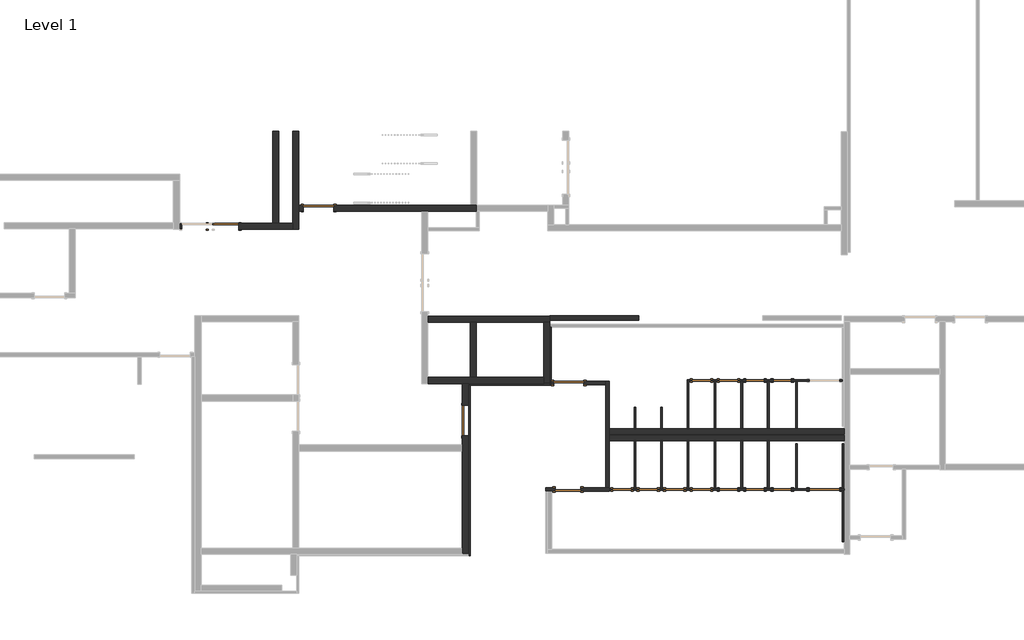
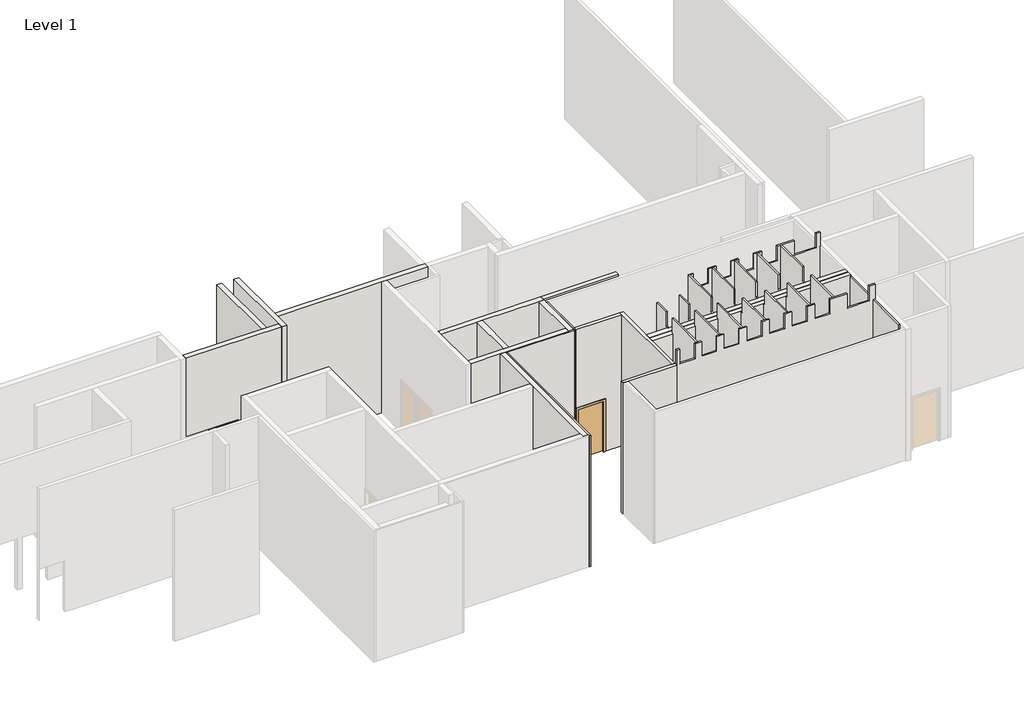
# One storey, part 7 of 10: 35 walls, 17 doors.
"""IFC4 building model written with IfcOpenShell, lengths in millimetres."""

from ifc_helpers import new_model, si_unit, frame, origin, origin_with_axes, place, context, project, spatial, polyline, outline, extrude, faceted_brep, transform, mapped, element, save
from components import door_4812912e, door_cc1532e9, door_7c9e1b45, door_f5ce0651, door_4a3ce9bd, door_11de03bc, door_87287b79

model = new_model("IFC4")

# Units and contexts
model_context = context("Model", 3, world=origin())
ifc_project = project(units=[si_unit("LENGTHUNIT", "METRE", prefix="MILLI")], contexts=[model_context])

# Site, building, storey
site = spatial("IfcSite", under=ifc_project)
building = spatial("IfcBuilding", under=site)
storey = spatial("IfcBuildingStorey", under=building, Name="Level 1", Elevation=0.0)

# Doors
placement = place(None, origin())
door_shape = door_4812912e(model_context)
element("IfcDoor", 1, ObjectType="Single-Flush : 30\" x 80\"", at=placement, inside=storey, context=model_context, shape_type="MappedRepresentation", body=[
    mapped(door_shape, transform((58998.1940091, 19972.9858476, 0.0), x_axis=(1.0, 0.0, 0.0), y_axis=(0.0, 1.0, 0.0), z_axis=(0.0, 0.0, 1.0))),
])
element("IfcDoor", 2, ObjectType="Single-Flush : 30\" x 80\"", at=placement, inside=storey, context=model_context, shape_type="MappedRepresentation", body=[
    mapped(door_shape, transform((58083.7940091, 16324.0853485, 0.0), x_axis=(1.0, 0.0, 0.0), y_axis=(0.0, 1.0, 0.0), z_axis=(0.0, 0.0, 1.0))),
])
element("IfcDoor", 3, ObjectType="Single-Flush : 30\" x 80\"", at=placement, inside=storey, context=model_context, shape_type="MappedRepresentation", body=[
    mapped(door_shape, transform((57194.7940091, 16324.0853485, 0.0), x_axis=(1.0, 0.0, 0.0), y_axis=(0.0, 1.0, 0.0), z_axis=(0.0, 0.0, 1.0))),
])
element("IfcDoor", 4, ObjectType="Single-Flush : 30\" x 80\"", at=placement, inside=storey, context=model_context, shape_type="MappedRepresentation", body=[
    mapped(door_shape, transform((56297.761744, 16324.0853485, 0.0), x_axis=(1.0, 0.0, 0.0), y_axis=(0.0, 1.0, 0.0), z_axis=(0.0, 0.0, 1.0))),
])
element("IfcDoor", 5, ObjectType="Single-Flush : 30\" x 80\"", at=placement, inside=storey, context=model_context, shape_type="MappedRepresentation", body=[
    mapped(door_shape, transform((55400.0944789, 16324.0853485, 0.0), x_axis=(1.0, 0.0, 0.0), y_axis=(0.0, 1.0, 0.0), z_axis=(0.0, 0.0, 1.0))),
])
element("IfcDoor", 6, ObjectType="Single-Flush : 30\" x 80\"", at=placement, inside=storey, context=model_context, shape_type="MappedRepresentation", body=[
    mapped(door_shape, transform((54511.0944789, 16324.0853485, 0.0), x_axis=(1.0, 0.0, 0.0), y_axis=(0.0, 1.0, 0.0), z_axis=(0.0, 0.0, 1.0))),
])
element("IfcDoor", 7, ObjectType="Single-Flush : 30\" x 80\"", at=placement, inside=storey, context=model_context, shape_type="MappedRepresentation", body=[
    mapped(door_shape, transform((53638.0884503, 16324.0853485, 0.0), x_axis=(1.0, 0.0, 0.0), y_axis=(0.0, 1.0, 0.0), z_axis=(0.0, 0.0, 1.0))),
])
door_2_shape = door_cc1532e9(model_context)
element("IfcDoor", 8, ObjectType="Single-Flush : 30\" x 80\"", at=placement, inside=storey, context=model_context, shape_type="MappedRepresentation", body=[
    mapped(door_2_shape, transform((58998.1940091, 16324.0853485, 0.0), x_axis=(1.0, 0.0, 0.0), y_axis=(0.0, 1.0, 0.0), z_axis=(0.0, 0.0, 1.0))),
])
element("IfcDoor", 9, ObjectType="Single-Flush : 30\" x 80\"", at=placement, inside=storey, context=model_context, shape_type="MappedRepresentation", body=[
    mapped(door_2_shape, transform((56297.761744, 19972.9858476, 0.0), x_axis=(1.0, 0.0, 0.0), y_axis=(0.0, 1.0, 0.0), z_axis=(0.0, 0.0, 1.0))),
])
element("IfcDoor", 10, ObjectType="Single-Flush : 30\" x 80\"", at=placement, inside=storey, context=model_context, shape_type="MappedRepresentation", body=[
    mapped(door_2_shape, transform((57194.7940091, 19972.9858476, 0.0), x_axis=(1.0, 0.0, 0.0), y_axis=(0.0, 1.0, 0.0), z_axis=(0.0, 0.0, 1.0))),
])
element("IfcDoor", 11, ObjectType="Single-Flush : 30\" x 80\"", at=placement, inside=storey, context=model_context, shape_type="MappedRepresentation", body=[
    mapped(door_2_shape, transform((58083.7940091, 19972.9858476, 0.0), x_axis=(1.0, 0.0, 0.0), y_axis=(0.0, 1.0, 0.0), z_axis=(0.0, 0.0, 1.0))),
])
door_3_shape = door_7c9e1b45(model_context)
element("IfcDoor", 12, ObjectType="Single-Flush : 34\" x 84\"", at=placement, inside=storey, context=model_context, shape_type="MappedRepresentation", body=[
    mapped(door_3_shape, transform((51827.2484096, 16324.0853485, 0.0), x_axis=(-1.0, 0.0, 0.0), y_axis=(0.0, -1.0, 0.0), z_axis=(0.0, 0.0, 1.0))),
])
door_4_shape = door_f5ce0651(model_context)
element("IfcDoor", 13, ObjectType="Single-Flush : 36\" x 84\"", at=placement, inside=storey, context=model_context, shape_type="MappedRepresentation", body=[
    mapped(door_4_shape, transform((51854.7913548, 19888.0228471, 0.0), x_axis=(-1.0, 0.0, 0.0), y_axis=(0.0, -1.0, 0.0), z_axis=(0.0, 0.0, 1.0))),
])
door_5_shape = door_4a3ce9bd(model_context)
element("IfcDoor", 14, ObjectType="Single-Flush : 36\" x 84\"", at=placement, inside=storey, context=model_context, shape_type="MappedRepresentation", body=[
    mapped(door_5_shape, transform((60406.6724216, 16324.0853485, 0.0), x_axis=(1.0, 0.0, 0.0), y_axis=(0.0, 1.0, 0.0), z_axis=(0.0, 0.0, 1.0))),
])
door_6_shape = door_11de03bc(model_context)
element("IfcDoor", 15, ObjectType="Single-Flush : 36\" x 84\"", at=placement, inside=storey, context=model_context, shape_type="MappedRepresentation", body=[
    mapped(door_6_shape, transform((48401.9974216, 18628.6486025, 0.0), x_axis=(0.0, -1.0, 0.0), y_axis=(1.0, 0.0, 0.0), z_axis=(0.0, 0.0, 1.0))),
])
element("IfcDoor", 16, ObjectType="Single-Flush : 36\" x 84\"", at=placement, inside=storey, context=model_context, shape_type="MappedRepresentation", body=[
    mapped(door_6_shape, transform((43490.2725377, 25738.7858476, 0.0), x_axis=(-1.0, 0.0, 0.0), y_axis=(0.0, -1.0, 0.0), z_axis=(0.0, 0.0, 1.0))),
])
door_7_shape = door_87287b79(model_context)
element("IfcDoor", 17, ObjectType="Single-Flush : 36\" x 84\"", at=placement, inside=storey, context=model_context, shape_type="MappedRepresentation", body=[
    mapped(door_7_shape, transform((40310.5099216, 25129.1858476, 0.0), x_axis=(1.0, 0.0, 0.0), y_axis=(0.0, 1.0, 0.0), z_axis=(0.0, 0.0, 1.0))),
])

# Walls
element("IfcWall", 18, ObjectType="N2A/B", at=placement, inside=storey, context=model_context, shape_type="SweptSolid", body=[
    extrude(outline(polyline([(0.0, 51273.7663548), (0.0, 51346.7913548), (2133.6, 51346.7913548), (2133.6, 52362.7913548), (0.0, 52362.7913548), (0.0, 53085.1224216), (5486.4, 53085.1224216), (5486.4, 51273.7663548), (0.0, 51273.7663548)])), frame((0.0, 19826.1103471, 0.0), z_axis=(0.0, 1.0, 0.0), x_axis=(0.0, 0.0, 1.0)), (0.0, 0.0, 1.0), 123.825),
])
element("IfcWall", 19, ObjectType="F1A", at=placement, inside=storey, context=model_context, shape_type="Brep", body=[
    faceted_brep([(55873.8044789, 18351.3228454, 0.0), (55873.8044789, 19944.4108476, 0.0), (55873.8044789, 20001.5608476, 0.0), (55873.8044789, 20001.5608476, 6096.0), (55873.8044789, 19944.4108476, 6096.0), (55873.8044789, 18457.6706082, 6096.0), (55873.8044789, 18457.6706082, 5486.4), (55873.8044789, 18351.3228454, 5486.4), (55816.6544789, 18351.3228454, 0.0), (55816.6544789, 18351.3228454, 5486.4), (55816.6544789, 18457.6706082, 5486.4), (55816.6544789, 18457.6706082, 6096.0), (55816.6544789, 20001.5608476, 6096.0), (55816.6544789, 20001.5608476, 0.0)], [[[0, 1, 2, 3, 4, 5, 6, 7]], [[8, 9, 10, 11, 12, 13]], [[2, 1, 0, 8, 13]], [[5, 4, 3, 12, 11]], [[3, 2, 13, 12]], [[6, 10, 9, 7]], [[0, 7, 9, 8]], [[6, 5, 11, 10]]]),
])
element("IfcWall", 20, ObjectType="F1A", at=placement, inside=storey, context=model_context, shape_type="SweptSolid", body=[
    extrude(outline(polyline([(18351.3228454, 0.0), (18351.3228454, 5486.4), (18457.6706082, 5486.4), (18457.6706082, 6096.0), (19944.4108476, 6096.0), (19944.4108476, 0.0), (18351.3228454, 0.0)])), frame((56721.7190091, 0.0, 0.0), z_axis=(1.0, 0.0, 0.0), x_axis=(0.0, 1.0, 0.0)), (0.0, 0.0, 1.0), 57.15),
])
element("IfcWall", 21, ObjectType="F1A", at=placement, inside=storey, context=model_context, shape_type="SweptSolid", body=[
    extrude(outline(polyline([(18351.3228454, 0.0), (18351.3228454, 5486.4), (18457.6706082, 5486.4), (18457.6706082, 6096.0), (19944.4108476, 6096.0), (19944.4108476, 0.0), (18351.3228454, 0.0)])), frame((57610.7190091, 0.0, 0.0), z_axis=(1.0, 0.0, 0.0), x_axis=(0.0, 1.0, 0.0)), (0.0, 0.0, 1.0), 57.15),
])
element("IfcWall", 22, ObjectType="F1A", at=placement, inside=storey, context=model_context, shape_type="SweptSolid", body=[
    extrude(outline(polyline([(18351.3228454, 0.0), (18351.3228454, 5486.4), (18457.6706082, 5486.4), (18457.6706082, 6096.0), (19944.4108476, 6096.0), (19944.4108476, 0.0), (18351.3228454, 0.0)])), frame((58499.7190091, 0.0, 0.0), z_axis=(1.0, 0.0, 0.0), x_axis=(0.0, 1.0, 0.0)), (0.0, 0.0, 1.0), 57.15),
])
element("IfcWall", 23, ObjectType="F1A", at=placement, inside=storey, context=model_context, shape_type="SweptSolid", body=[
    extrude(outline(polyline([(18351.3228454, 0.0), (18351.3228454, 5486.4), (18457.6706082, 5486.4), (18457.6706082, 6096.0), (19944.4108476, 6096.0), (19944.4108476, 0.0), (18351.3228454, 0.0)])), frame((59439.5190091, 0.0, 0.0), z_axis=(1.0, 0.0, 0.0), x_axis=(0.0, 1.0, 0.0)), (0.0, 0.0, 1.0), 57.15),
])
element("IfcWall", 24, ObjectType="F1A", at=placement, inside=storey, context=model_context, shape_type="SweptSolid", body=[
    extrude(outline(polyline([(18351.3228454, 0.0), (18351.3228454, 5486.4), (18457.6706082, 5486.4), (18457.6706082, 6096.0), (19084.7331065, 6096.0), (19084.7331065, 0.0), (18351.3228454, 0.0)])), frame((54926.3844789, 0.0, 0.0), z_axis=(1.0, 0.0, 0.0), x_axis=(0.0, 1.0, 0.0)), (0.0, 0.0, 1.0), 57.15),
])
element("IfcWall", 25, ObjectType="F1A", at=placement, inside=storey, context=model_context, shape_type="SweptSolid", body=[
    extrude(outline(polyline([(18351.3228454, 0.0), (18351.3228454, 5486.4), (18457.6706082, 5486.4), (18457.6706082, 6096.0), (19084.7331065, 6096.0), (19084.7331065, 0.0), (18351.3228454, 0.0)])), frame((54038.6544789, 0.0, 0.0), z_axis=(1.0, 0.0, 0.0), x_axis=(0.0, 1.0, 0.0)), (0.0, 0.0, 1.0), 57.15),
])
element("IfcWall", 26, ObjectType="F1A", at=placement, inside=storey, context=model_context, shape_type="Brep", body=[
    faceted_brep([(58388.5940091, 19944.4108476, 2032.0), (58388.5940091, 19944.4108476, 0.0), (58499.7190091, 19944.4108476, 0.0), (58556.8690091, 19944.4108476, 0.0), (58693.3940091, 19944.4108476, 0.0), (58693.3940091, 19944.4108476, 2032.0), (59302.9940091, 19944.4108476, 2032.0), (59302.9940091, 19944.4108476, 0.0), (59439.5190091, 19944.4108476, 0.0), (59496.6690091, 19944.4108476, 0.0), (59906.0544789, 19944.4108476, 0.0), (59906.0544789, 19944.4108476, 2133.6), (60922.0544789, 19944.4108476, 2133.6), (60922.0544789, 19944.4108476, 0.0), (60995.0794789, 19944.4108476, 0.0), (60995.0794789, 19944.4108476, 5486.4), (61003.2065091, 19944.4108476, 5486.4), (61003.2065091, 19944.4108476, 6096.0), (60845.8544789, 19944.4108476, 6096.0), (60845.8544789, 19944.4108476, 5486.4), (59982.2544789, 19944.4108476, 5486.4), (59982.2544789, 19944.4108476, 6096.0), (59496.6690091, 19944.4108476, 6096.0), (59439.5190091, 19944.4108476, 6096.0), (59302.9940091, 19944.4108476, 6096.0), (59302.9940091, 19944.4108476, 5486.4), (58693.3940091, 19944.4108476, 5486.4), (58693.3940091, 19944.4108476, 6096.0), (58556.8690091, 19944.4108476, 6096.0), (58499.7190091, 19944.4108476, 6096.0), (58388.5940091, 19944.4108476, 6096.0), (58388.5940091, 19944.4108476, 5486.4), (57778.9940091, 19944.4108476, 5486.4), (57778.9940091, 19944.4108476, 6096.0), (57667.8690091, 19944.4108476, 6096.0), (57610.7190091, 19944.4108476, 6096.0), (57499.5940091, 19944.4108476, 6096.0), (57499.5940091, 19944.4108476, 5486.4), (56889.9940091, 19944.4108476, 5486.4), (56889.9940091, 19944.4108476, 6096.0), (56778.8690091, 19944.4108476, 6096.0), (56721.7190091, 19944.4108476, 6096.0), (56602.561744, 19944.4108476, 6096.0), (56602.561744, 19944.4108476, 5486.4), (55992.961744, 19944.4108476, 5486.4), (55992.961744, 19944.4108476, 6096.0), (55873.8044789, 19944.4108476, 6096.0), (55873.8044789, 19944.4108476, 0.0), (55992.961744, 19944.4108476, 0.0), (55992.961744, 19944.4108476, 2032.0), (56602.561744, 19944.4108476, 2032.0), (56602.561744, 19944.4108476, 0.0), (56721.7190091, 19944.4108476, 0.0), (56778.8690091, 19944.4108476, 0.0), (56889.9940091, 19944.4108476, 0.0), (56889.9940091, 19944.4108476, 2032.0), (57499.5940091, 19944.4108476, 2032.0), (57499.5940091, 19944.4108476, 0.0), (57610.7190091, 19944.4108476, 0.0), (57667.8690091, 19944.4108476, 0.0), (57778.9940091, 19944.4108476, 0.0), (57778.9940091, 19944.4108476, 2032.0), (58693.3940091, 20001.5608476, 0.0), (58388.5940091, 20001.5608476, 0.0), (58388.5940091, 20001.5608476, 2032.0), (57778.9940091, 20001.5608476, 2032.0), (57778.9940091, 20001.5608476, 0.0), (57499.5940091, 20001.5608476, 0.0), (57499.5940091, 20001.5608476, 2032.0), (56889.9940091, 20001.5608476, 2032.0), (56889.9940091, 20001.5608476, 0.0), (56602.561744, 20001.5608476, 0.0), (56602.561744, 20001.5608476, 2032.0), (55992.961744, 20001.5608476, 2032.0), (55992.961744, 20001.5608476, 0.0), (55873.8044789, 20001.5608476, 0.0), (55873.8044789, 20001.5608476, 6096.0), (55992.961744, 20001.5608476, 6096.0), (55992.961744, 20001.5608476, 5486.4), (56602.561744, 20001.5608476, 5486.4), (56602.561744, 20001.5608476, 6096.0), (56889.9940091, 20001.5608476, 6096.0), (56889.9940091, 20001.5608476, 5486.4), (57499.5940091, 20001.5608476, 5486.4), (57499.5940091, 20001.5608476, 6096.0), (57778.9940091, 20001.5608476, 6096.0), (57778.9940091, 20001.5608476, 5486.4), (58388.5940091, 20001.5608476, 5486.4), (58388.5940091, 20001.5608476, 6096.0), (58693.3940091, 20001.5608476, 6096.0), (58693.3940091, 20001.5608476, 5486.4), (59302.9940091, 20001.5608476, 5486.4), (59302.9940091, 20001.5608476, 6096.0), (59982.2544789, 20001.5608476, 6096.0), (59982.2544789, 20001.5608476, 5486.4), (60845.8544789, 20001.5608476, 5486.4), (60845.8544789, 20001.5608476, 6096.0), (61003.2065091, 20001.5608476, 6096.0), (61003.2065091, 20001.5608476, 5486.4), (60995.0794789, 20001.5608476, 5486.4), (60995.0794789, 20001.5608476, 0.0), (60922.0544789, 20001.5608476, 0.0), (60922.0544789, 20001.5608476, 2133.6), (59906.0544789, 20001.5608476, 2133.6), (59906.0544789, 20001.5608476, 0.0), (59302.9940091, 20001.5608476, 0.0), (59302.9940091, 20001.5608476, 2032.0), (58693.3940091, 20001.5608476, 2032.0)], [[[0, 1, 2, 3, 4, 5, 6, 7, 8, 9, 10, 11, 12, 13, 14, 15, 16, 17, 18, 19, 20, 21, 22, 23, 24, 25, 26, 27, 28, 29, 30, 31, 32, 33, 34, 35, 36, 37, 38, 39, 40, 41, 42, 43, 44, 45, 46, 47, 48, 49, 50, 51, 52, 53, 54, 55, 56, 57, 58, 59, 60, 61]], [[62, 63, 64, 65, 66, 67, 68, 69, 70, 71, 72, 73, 74, 75, 76, 77, 78, 79, 80, 81, 82, 83, 84, 85, 86, 87, 88, 89, 90, 91, 92, 93, 94, 95, 96, 97, 98, 99, 100, 101, 102, 103, 104, 105, 106, 107]], [[10, 9, 8, 7, 105, 104]], [[100, 14, 13, 101]], [[4, 3, 2, 1, 63, 62]], [[48, 47, 75, 74]], [[54, 53, 52, 51, 71, 70]], [[60, 59, 58, 57, 67, 66]], [[17, 97, 96, 18]], [[76, 46, 45, 77]], [[21, 93, 92, 24, 23, 22]], [[27, 89, 88, 30, 29, 28]], [[33, 85, 84, 36, 35, 34]], [[39, 81, 80, 42, 41, 40]], [[47, 46, 76, 75]], [[16, 15, 99, 98]], [[15, 14, 100, 99]], [[17, 16, 98, 97]], [[102, 101, 13, 12]], [[103, 102, 12, 11]], [[104, 103, 11, 10]], [[94, 20, 19, 95]], [[95, 19, 18, 96]], [[20, 94, 93, 21]], [[90, 26, 25, 91]], [[91, 25, 24, 92]], [[26, 90, 89, 27]], [[86, 32, 31, 87]], [[87, 31, 30, 88]], [[32, 86, 85, 33]], [[37, 83, 82, 38]], [[38, 82, 81, 39]], [[83, 37, 36, 84]], [[78, 44, 43, 79]], [[79, 43, 42, 80]], [[44, 78, 77, 45]], [[106, 105, 7, 6]], [[107, 106, 6, 5]], [[62, 107, 5, 4]], [[72, 71, 51, 50]], [[73, 72, 50, 49]], [[74, 73, 49, 48]], [[68, 67, 57, 56]], [[69, 68, 56, 55]], [[70, 69, 55, 54]], [[64, 63, 1, 0]], [[65, 64, 0, 61]], [[66, 65, 61, 60]]]),
])
element("IfcWall", 27, ObjectType="F1A", at=placement, inside=storey, context=model_context, shape_type="SweptSolid", body=[
    extrude(outline(polyline([(17951.2728471, 0.0), (16352.6603485, 0.0), (16352.6603485, 6096.0), (18009.99561, 6096.0), (18009.99561, 5486.4), (17951.2728471, 5486.4), (17951.2728471, 0.0)])), frame((54038.6544789, 0.0, 0.0), z_axis=(1.0, 0.0, 0.0), x_axis=(0.0, 1.0, 0.0)), (0.0, 0.0, 1.0), 57.15),
])
element("IfcWall", 28, ObjectType="F1A", at=placement, inside=storey, context=model_context, shape_type="SweptSolid", body=[
    extrude(outline(polyline([(17951.2728471, 0.0), (16352.6603485, 0.0), (16352.6603485, 6096.0), (18009.99561, 6096.0), (18009.99561, 5486.4), (17951.2728471, 5486.4), (17951.2728471, 0.0)])), frame((54926.3844789, 0.0, 0.0), z_axis=(1.0, 0.0, 0.0), x_axis=(0.0, 1.0, 0.0)), (0.0, 0.0, 1.0), 57.15),
])
element("IfcWall", 29, ObjectType="F1A", at=placement, inside=storey, context=model_context, shape_type="SweptSolid", body=[
    extrude(outline(polyline([(17951.2728471, 0.0), (16352.6603485, 0.0), (16352.6603485, 6096.0), (18009.99561, 6096.0), (18009.99561, 5486.4), (17951.2728471, 5486.4), (17951.2728471, 0.0)])), frame((55816.6544789, 0.0, 0.0), z_axis=(1.0, 0.0, 0.0), x_axis=(0.0, 1.0, 0.0)), (0.0, 0.0, 1.0), 57.15),
])
element("IfcWall", 30, ObjectType="F1A", at=placement, inside=storey, context=model_context, shape_type="SweptSolid", body=[
    extrude(outline(polyline([(17951.2728471, 0.0), (16352.6603485, 0.0), (16352.6603485, 6096.0), (17857.59561, 6096.0), (17857.59561, 5486.4), (17951.2728471, 5486.4), (17951.2728471, 0.0)])), frame((56721.7190091, 0.0, 0.0), z_axis=(1.0, 0.0, 0.0), x_axis=(0.0, 1.0, 0.0)), (0.0, 0.0, 1.0), 57.15),
])
element("IfcWall", 31, ObjectType="F1A", at=placement, inside=storey, context=model_context, shape_type="SweptSolid", body=[
    extrude(outline(polyline([(17951.2728471, 0.0), (16352.6603485, 0.0), (16352.6603485, 6096.0), (17857.59561, 6096.0), (17857.59561, 5486.4), (17951.2728471, 5486.4), (17951.2728471, 0.0)])), frame((57610.7190091, 0.0, 0.0), z_axis=(1.0, 0.0, 0.0), x_axis=(0.0, 1.0, 0.0)), (0.0, 0.0, 1.0), 57.15),
])
element("IfcWall", 32, ObjectType="F1A", at=placement, inside=storey, context=model_context, shape_type="SweptSolid", body=[
    extrude(outline(polyline([(17951.2728471, 0.0), (16352.6603485, 0.0), (16352.6603485, 6096.0), (17857.59561, 6096.0), (17857.59561, 5486.4), (17951.2728471, 5486.4), (17951.2728471, 0.0)])), frame((58499.7190091, 0.0, 0.0), z_axis=(1.0, 0.0, 0.0), x_axis=(0.0, 1.0, 0.0)), (0.0, 0.0, 1.0), 57.15),
])
element("IfcWall", 33, ObjectType="F1A", at=placement, inside=storey, context=model_context, shape_type="SweptSolid", body=[
    extrude(outline(polyline([(59439.5190091, 16352.6603485), (59439.5190091, 17857.59561), (59496.6690091, 17857.59561), (59496.6690091, 16352.6603485), (59439.5190091, 16352.6603485)])), origin_with_axes(), (0.0, 0.0, 1.0), 6096.0),
])
element("IfcWall", 34, ObjectType="F1A", at=placement, inside=storey, context=model_context, shape_type="Brep", body=[
    faceted_brep([(53942.8884503, 16295.5103485, 2032.0), (53942.8884503, 16295.5103485, 0.0), (54206.2944789, 16295.5103485, 0.0), (54206.2944789, 16295.5103485, 2032.0), (54815.8944789, 16295.5103485, 2032.0), (54815.8944789, 16295.5103485, 0.0), (55095.2944789, 16295.5103485, 0.0), (55095.2944789, 16295.5103485, 2032.0), (55704.8944789, 16295.5103485, 2032.0), (55704.8944789, 16295.5103485, 0.0), (55992.961744, 16295.5103485, 0.0), (55992.961744, 16295.5103485, 2032.0), (56602.561744, 16295.5103485, 2032.0), (56602.561744, 16295.5103485, 0.0), (56889.9940091, 16295.5103485, 0.0), (56889.9940091, 16295.5103485, 2032.0), (57499.5940091, 16295.5103485, 2032.0), (57499.5940091, 16295.5103485, 0.0), (57778.9940091, 16295.5103485, 0.0), (57778.9940091, 16295.5103485, 2032.0), (58388.5940091, 16295.5103485, 2032.0), (58388.5940091, 16295.5103485, 0.0), (58693.3940091, 16295.5103485, 0.0), (58693.3940091, 16295.5103485, 2032.0), (59302.9940091, 16295.5103485, 2032.0), (59302.9940091, 16295.5103485, 0.0), (59898.6724216, 16295.5103485, 0.0), (59898.6724216, 16295.5103485, 2133.6), (60914.6724216, 16295.5103485, 2133.6), (60914.6724216, 16295.5103485, 0.0), (61076.5974216, 16295.5103485, 0.0), (61076.5974216, 16295.5103485, 6096.0), (60838.4724216, 16295.5103485, 6096.0), (60838.4724216, 16295.5103485, 5486.4), (59974.8724216, 16295.5103485, 5486.4), (59974.8724216, 16295.5103485, 6096.0), (59302.9940091, 16295.5103485, 6096.0), (59302.9940091, 16295.5103485, 5486.4), (58693.3940091, 16295.5103485, 5486.4), (58693.3940091, 16295.5103485, 6096.0), (58388.5940091, 16295.5103485, 6096.0), (58388.5940091, 16295.5103485, 5486.4), (57778.9940091, 16295.5103485, 5486.4), (57778.9940091, 16295.5103485, 6096.0), (57499.5940091, 16295.5103485, 6096.0), (57499.5940091, 16295.5103485, 5486.4), (56889.9940091, 16295.5103485, 5486.4), (56889.9940091, 16295.5103485, 6096.0), (56602.561744, 16295.5103485, 6096.0), (56602.561744, 16295.5103485, 5486.4), (55992.961744, 16295.5103485, 5486.4), (55992.961744, 16295.5103485, 6096.0), (55704.8944789, 16295.5103485, 6096.0), (55704.8944789, 16295.5103485, 5486.4), (55095.2944789, 16295.5103485, 5486.4), (55095.2944789, 16295.5103485, 6096.0), (54815.8944789, 16295.5103485, 6096.0), (54815.8944789, 16295.5103485, 5486.4), (54206.2944789, 16295.5103485, 5486.4), (54206.2944789, 16295.5103485, 6096.0), (53950.642994, 16295.5103485, 6096.0), (53950.642994, 16295.5103485, 5486.4), (53341.042994, 16295.5103485, 5486.4), (53341.042994, 16295.5103485, 6096.0), (53224.4565091, 16295.5103485, 6096.0), (53224.4565091, 16295.5103485, 5486.4), (53208.9474216, 16295.5103485, 5486.4), (53208.9474216, 16295.5103485, 0.0), (53333.2884503, 16295.5103485, 0.0), (53333.2884503, 16295.5103485, 2032.0), (54206.2944789, 16352.6603485, 0.0), (54095.8044789, 16352.6603485, 0.0), (54038.6544789, 16352.6603485, 0.0), (53942.8884503, 16352.6603485, 0.0), (53942.8884503, 16352.6603485, 2032.0), (53333.2884503, 16352.6603485, 2032.0), (53333.2884503, 16352.6603485, 0.0), (53208.9474216, 16352.6603485, 0.0), (53208.9474216, 16352.6603485, 5486.4), (53224.4565091, 16352.6603485, 5486.4), (53224.4565091, 16352.6603485, 6096.0), (53341.042994, 16352.6603485, 6096.0), (53341.042994, 16352.6603485, 5486.4), (53950.642994, 16352.6603485, 5486.4), (53950.642994, 16352.6603485, 6096.0), (54038.6544789, 16352.6603485, 6096.0), (54095.8044789, 16352.6603485, 6096.0), (54206.2944789, 16352.6603485, 6096.0), (54206.2944789, 16352.6603485, 5486.4), (54815.8944789, 16352.6603485, 5486.4), (54815.8944789, 16352.6603485, 6096.0), (54926.3844789, 16352.6603485, 6096.0), (54983.5344789, 16352.6603485, 6096.0), (55095.2944789, 16352.6603485, 6096.0), (55095.2944789, 16352.6603485, 5486.4), (55704.8944789, 16352.6603485, 5486.4), (55704.8944789, 16352.6603485, 6096.0), (55816.6544789, 16352.6603485, 6096.0), (55873.8044789, 16352.6603485, 6096.0), (55992.961744, 16352.6603485, 6096.0), (55992.961744, 16352.6603485, 5486.4), (56602.561744, 16352.6603485, 5486.4), (56602.561744, 16352.6603485, 6096.0), (56721.7190091, 16352.6603485, 6096.0), (56778.8690091, 16352.6603485, 6096.0), (56889.9940091, 16352.6603485, 6096.0), (56889.9940091, 16352.6603485, 5486.4), (57499.5940091, 16352.6603485, 5486.4), (57499.5940091, 16352.6603485, 6096.0), (57610.7190091, 16352.6603485, 6096.0), (57667.8690091, 16352.6603485, 6096.0), (57778.9940091, 16352.6603485, 6096.0), (57778.9940091, 16352.6603485, 5486.4), (58388.5940091, 16352.6603485, 5486.4), (58388.5940091, 16352.6603485, 6096.0), (58499.7190091, 16352.6603485, 6096.0), (58556.8690091, 16352.6603485, 6096.0), (58693.3940091, 16352.6603485, 6096.0), (58693.3940091, 16352.6603485, 5486.4), (59302.9940091, 16352.6603485, 5486.4), (59302.9940091, 16352.6603485, 6096.0), (59439.5190091, 16352.6603485, 6096.0), (59496.6690091, 16352.6603485, 6096.0), (59974.8724216, 16352.6603485, 6096.0), (59974.8724216, 16352.6603485, 5486.4), (60838.4724216, 16352.6603485, 5486.4), (60838.4724216, 16352.6603485, 6096.0), (61076.5974216, 16352.6603485, 6096.0), (61076.5974216, 16352.6603485, 0.0), (60914.6724216, 16352.6603485, 0.0), (60914.6724216, 16352.6603485, 2133.6), (59898.6724216, 16352.6603485, 2133.6), (59898.6724216, 16352.6603485, 0.0), (59496.6690091, 16352.6603485, 0.0), (59439.5190091, 16352.6603485, 0.0), (59302.9940091, 16352.6603485, 0.0), (59302.9940091, 16352.6603485, 2032.0), (58693.3940091, 16352.6603485, 2032.0), (58693.3940091, 16352.6603485, 0.0), (58556.8690091, 16352.6603485, 0.0), (58499.7190091, 16352.6603485, 0.0), (58388.5940091, 16352.6603485, 0.0), (58388.5940091, 16352.6603485, 2032.0), (57778.9940091, 16352.6603485, 2032.0), (57778.9940091, 16352.6603485, 0.0), (57667.8690091, 16352.6603485, 0.0), (57610.7190091, 16352.6603485, 0.0), (57499.5940091, 16352.6603485, 0.0), (57499.5940091, 16352.6603485, 2032.0), (56889.9940091, 16352.6603485, 2032.0), (56889.9940091, 16352.6603485, 0.0), (56778.8690091, 16352.6603485, 0.0), (56721.7190091, 16352.6603485, 0.0), (56602.561744, 16352.6603485, 0.0), (56602.561744, 16352.6603485, 2032.0), (55992.961744, 16352.6603485, 2032.0), (55992.961744, 16352.6603485, 0.0), (55873.8044789, 16352.6603485, 0.0), (55816.6544789, 16352.6603485, 0.0), (55704.8944789, 16352.6603485, 0.0), (55704.8944789, 16352.6603485, 2032.0), (55095.2944789, 16352.6603485, 2032.0), (55095.2944789, 16352.6603485, 0.0), (54983.5344789, 16352.6603485, 0.0), (54926.3844789, 16352.6603485, 0.0), (54815.8944789, 16352.6603485, 0.0), (54815.8944789, 16352.6603485, 2032.0), (54206.2944789, 16352.6603485, 2032.0)], [[[0, 1, 2, 3, 4, 5, 6, 7, 8, 9, 10, 11, 12, 13, 14, 15, 16, 17, 18, 19, 20, 21, 22, 23, 24, 25, 26, 27, 28, 29, 30, 31, 32, 33, 34, 35, 36, 37, 38, 39, 40, 41, 42, 43, 44, 45, 46, 47, 48, 49, 50, 51, 52, 53, 54, 55, 56, 57, 58, 59, 60, 61, 62, 63, 64, 65, 66, 67, 68, 69]], [[70, 71, 72, 73, 74, 75, 76, 77, 78, 79, 80, 81, 82, 83, 84, 85, 86, 87, 88, 89, 90, 91, 92, 93, 94, 95, 96, 97, 98, 99, 100, 101, 102, 103, 104, 105, 106, 107, 108, 109, 110, 111, 112, 113, 114, 115, 116, 117, 118, 119, 120, 121, 122, 123, 124, 125, 126, 127, 128, 129, 130, 131, 132, 133, 134, 135, 136, 137, 138, 139, 140, 141, 142, 143, 144, 145, 146, 147, 148, 149, 150, 151, 152, 153, 154, 155, 156, 157, 158, 159, 160, 161, 162, 163, 164, 165, 166, 167]], [[26, 25, 135, 134, 133, 132]], [[128, 30, 29, 129]], [[22, 21, 141, 140, 139, 138]], [[18, 17, 147, 146, 145, 144]], [[14, 13, 153, 152, 151, 150]], [[10, 9, 159, 158, 157, 156]], [[6, 5, 165, 164, 163, 162]], [[2, 1, 73, 72, 71, 70]], [[68, 67, 77, 76]], [[31, 127, 126, 32]], [[80, 64, 63, 81]], [[35, 123, 122, 121, 120, 36]], [[108, 44, 43, 111, 110, 109]], [[47, 105, 104, 103, 102, 48]], [[114, 40, 39, 117, 116, 115]], [[51, 99, 98, 97, 96, 52]], [[55, 93, 92, 91, 90, 56]], [[59, 87, 86, 85, 84, 60]], [[31, 30, 128, 127]], [[66, 65, 79, 78]], [[67, 66, 78, 77]], [[65, 64, 80, 79]], [[130, 129, 29, 28]], [[131, 130, 28, 27]], [[132, 131, 27, 26]], [[124, 34, 33, 125]], [[125, 33, 32, 126]], [[34, 124, 123, 35]], [[106, 46, 45, 107]], [[107, 45, 44, 108]], [[46, 106, 105, 47]], [[112, 42, 41, 113]], [[113, 41, 40, 114]], [[42, 112, 111, 43]], [[100, 50, 49, 101]], [[101, 49, 48, 102]], [[50, 100, 99, 51]], [[94, 54, 53, 95]], [[95, 53, 52, 96]], [[54, 94, 93, 55]], [[88, 58, 57, 89]], [[89, 57, 56, 90]], [[58, 88, 87, 59]], [[82, 62, 61, 83]], [[83, 61, 60, 84]], [[62, 82, 81, 63]], [[118, 38, 37, 119]], [[119, 37, 36, 120]], [[38, 118, 117, 39]], [[136, 135, 25, 24]], [[137, 136, 24, 23]], [[138, 137, 23, 22]], [[142, 141, 21, 20]], [[143, 142, 20, 19]], [[144, 143, 19, 18]], [[148, 147, 17, 16]], [[149, 148, 16, 15]], [[150, 149, 15, 14]], [[154, 153, 13, 12]], [[155, 154, 12, 11]], [[156, 155, 11, 10]], [[160, 159, 9, 8]], [[161, 160, 8, 7]], [[162, 161, 7, 6]], [[166, 165, 5, 4]], [[167, 166, 4, 3]], [[70, 167, 3, 2]], [[74, 73, 1, 0]], [[75, 74, 0, 69]], [[76, 75, 69, 68]]]),
])
element("IfcWall", 35, ObjectType="F5A", at=placement, inside=storey, context=model_context, shape_type="Brep", body=[
    faceted_brep([(51216.6163548, 21745.3978471, 0.0), (51216.6163548, 19878.4978486, 0.0), (51216.6163548, 19821.3478486, 0.0), (51216.6163548, 19821.3478486, 5486.4), (51216.6163548, 19878.4978486, 5486.4), (51216.6163548, 21745.3978471, 5486.4), (51273.7663548, 21745.3978471, 0.0), (51273.7663548, 21745.3978471, 5486.4), (51273.7663548, 19949.9353471, 5486.4), (51273.7663548, 19826.1103471, 5486.4), (51273.7663548, 19821.3478486, 5486.4), (51273.7663548, 19821.3478486, 0.0), (51273.7663548, 19826.1103471, 0.0), (51273.7663548, 19949.9353471, 0.0)], [[[0, 1, 2, 3, 4, 5]], [[6, 7, 8, 9, 10, 11, 12, 13]], [[2, 1, 0, 6, 13, 12, 11]], [[5, 4, 3, 10, 9, 8, 7]], [[0, 5, 7, 6]], [[3, 2, 11, 10]]]),
])
element("IfcWall", 36, ObjectType="F5A", at=placement, inside=storey, context=model_context, shape_type="Brep", body=[
    faceted_brep([(51216.6163548, 19878.4978486, 0.0), (48505.1849216, 19878.4978486, 0.0), (48505.1849216, 19878.4978486, 5486.4), (51216.6163548, 19878.4978486, 5486.4), (51216.6163548, 19821.3478486, 0.0), (51216.6163548, 19821.3478486, 5486.4), (48562.3349216, 19821.3478486, 5486.4), (48505.1849216, 19821.3478486, 5486.4), (48505.1849216, 19821.3478486, 0.0), (48562.3349216, 19821.3478486, 0.0)], [[[0, 1, 2, 3]], [[4, 5, 6, 7, 8, 9]], [[1, 0, 4, 9, 8]], [[3, 2, 7, 6, 5]], [[2, 1, 8, 7]], [[0, 3, 5, 4]]]),
])
element("IfcWall", 37, ObjectType="F5A", at=placement, inside=storey, context=model_context, shape_type="Brep", body=[
    faceted_brep([(48505.1849216, 19821.3478486, 0.0), (48505.1849216, 14175.8909273, 0.0), (48505.1849216, 14118.7409273, 0.0), (48505.1849216, 14118.7409273, 5486.4), (48505.1849216, 14175.8909273, 5486.4), (48505.1849216, 19821.3478486, 5486.4), (48562.3349216, 19821.3478486, 0.0), (48562.3349216, 19821.3478486, 5486.4), (48562.3349216, 14118.7409273, 5486.4), (48562.3349216, 14118.7409273, 0.0)], [[[0, 1, 2, 3, 4, 5]], [[6, 7, 8, 9]], [[2, 1, 0, 6, 9]], [[5, 4, 3, 8, 7]], [[3, 2, 9, 8]], [[0, 5, 7, 6]]]),
])
element("IfcWall", 38, ObjectType="F5A", at=placement, inside=storey, context=model_context, shape_type="SweptSolid", body=[
    extrude(outline(polyline([(61052.2294789, 17862.1896164), (61052.2294789, 14570.9594621), (60995.0794789, 14570.9594621), (60995.0794789, 17862.1896164), (61052.2294789, 17862.1896164)])), origin_with_axes(), (0.0, 0.0, 1.0), 5486.4),
])
element("IfcWall", 39, ObjectType="N1A", at=placement, inside=storey, context=model_context, shape_type="Brep", body=[
    faceted_brep([(51084.8538548, 16262.1728485, 0.0), (51142.0038548, 16262.1728485, 0.0), (51155.7359096, 16262.1728485, 0.0), (51279.5609096, 16262.1728485, 0.0), (51395.4484096, 16262.1728485, 0.0), (51395.4484096, 16262.1728485, 2133.6), (52259.0484096, 16262.1728485, 2133.6), (52259.0484096, 16262.1728485, 0.0), (53208.9474216, 16262.1728485, 0.0), (53208.9474216, 16262.1728485, 5486.4), (51279.5609096, 16262.1728485, 5486.4), (51155.7359096, 16262.1728485, 5486.4), (51142.0038548, 16262.1728485, 5486.4), (51084.8538548, 16262.1728485, 5486.4), (51395.4484096, 16385.9978485, 2133.6), (51395.4484096, 16385.9978485, 0.0), (51084.8538548, 16385.9978485, 0.0), (51084.8538548, 16385.9978485, 5486.4), (53085.1224216, 16385.9978485, 5486.4), (53208.9474216, 16385.9978485, 5486.4), (53208.9474216, 16385.9978485, 0.0), (53085.1224216, 16385.9978485, 0.0), (52259.0484096, 16385.9978485, 0.0), (52259.0484096, 16385.9978485, 2133.6), (53208.9474216, 16352.6603485, 0.0), (53208.9474216, 16295.5103485, 0.0), (53208.9474216, 16295.5103485, 5486.4), (53208.9474216, 16352.6603485, 5486.4)], [[[0, 1, 2, 3, 4, 5, 6, 7, 8, 9, 10, 11, 12, 13]], [[14, 15, 16, 17, 18, 19, 20, 21, 22, 23]], [[16, 15, 4, 3, 2, 1, 0]], [[22, 21, 20, 24, 25, 8, 7]], [[13, 12, 11, 10, 9, 26, 27, 19, 18, 17]], [[0, 13, 17, 16]], [[9, 8, 25, 24, 20, 19, 27, 26]], [[5, 4, 15, 14]], [[6, 5, 14, 23]], [[7, 6, 23, 22]]]),
])
element("IfcWall", 40, ObjectType="N1A", at=placement, inside=storey, context=model_context, shape_type="Brep", body=[
    faceted_brep([(53085.1224216, 19949.9353471, 0.0), (53085.1224216, 19826.1103471, 0.0), (53085.1224216, 16385.9978485, 0.0), (53085.1224216, 16385.9978485, 5486.4), (53085.1224216, 19826.1103471, 5486.4), (53085.1224216, 19949.9353471, 5486.4), (53208.9474216, 19949.9353471, 0.0), (53208.9474216, 19949.9353471, 5486.4), (53208.9474216, 18351.3228454, 5486.4), (53208.9474216, 18167.1728454, 5486.4), (53208.9474216, 18135.4228471, 5486.4), (53208.9474216, 17951.2728471, 5486.4), (53208.9474216, 16385.9978485, 5486.4), (53208.9474216, 16385.9978485, 0.0), (53208.9474216, 17951.2728471, 0.0), (53208.9474216, 18135.4228471, 0.0), (53208.9474216, 18167.1728454, 0.0), (53208.9474216, 18351.3228454, 0.0)], [[[0, 1, 2, 3, 4, 5]], [[6, 7, 8, 9, 10, 11, 12, 13, 14, 15, 16, 17]], [[2, 1, 0, 6, 17, 16, 15, 14, 13]], [[5, 4, 3, 12, 11, 10, 9, 8, 7]], [[0, 5, 7, 6]], [[3, 2, 13, 12]]]),
])
element("IfcWall", 41, ObjectType="N1B", at=placement, inside=storey, context=model_context, shape_type="Brep", body=[
    faceted_brep([(53208.9474216, 17951.2728471, 0.0), (54038.6544789, 17951.2728471, 0.0), (54095.8044789, 17951.2728471, 0.0), (54926.3844789, 17951.2728471, 0.0), (54983.5344789, 17951.2728471, 0.0), (55816.6544789, 17951.2728471, 0.0), (55873.8044789, 17951.2728471, 0.0), (56721.7190091, 17951.2728471, 0.0), (56778.8690091, 17951.2728471, 0.0), (57610.7190091, 17951.2728471, 0.0), (57667.8690091, 17951.2728471, 0.0), (58499.7190091, 17951.2728471, 0.0), (58556.8690091, 17951.2728471, 0.0), (61076.5974216, 17951.2728471, 0.0), (61076.5974216, 17951.2728471, 5486.4), (58556.8690091, 17951.2728471, 5486.4), (58499.7190091, 17951.2728471, 5486.4), (57667.8690091, 17951.2728471, 5486.4), (57610.7190091, 17951.2728471, 5486.4), (56778.8690091, 17951.2728471, 5486.4), (56721.7190091, 17951.2728471, 5486.4), (55873.8044789, 17951.2728471, 5486.4), (55816.6544789, 17951.2728471, 5486.4), (54983.5344789, 17951.2728471, 5486.4), (54926.3844789, 17951.2728471, 5486.4), (54095.8044789, 17951.2728471, 5486.4), (54038.6544789, 17951.2728471, 5486.4), (53208.9474216, 17951.2728471, 5486.4), (53208.9474216, 18135.4228471, 0.0), (53208.9474216, 18135.4228471, 5486.4), (61076.5974216, 18135.4228471, 5486.4), (61076.5974216, 18135.4228471, 0.0)], [[[0, 1, 2, 3, 4, 5, 6, 7, 8, 9, 10, 11, 12, 13, 14, 15, 16, 17, 18, 19, 20, 21, 22, 23, 24, 25, 26, 27]], [[28, 29, 30, 31]], [[13, 12, 11, 10, 9, 8, 7, 6, 5, 4, 3, 2, 1, 0, 28, 31]], [[27, 26, 25, 24, 23, 22, 21, 20, 19, 18, 17, 16, 15, 14, 30, 29]], [[0, 27, 29, 28]], [[14, 13, 31, 30]]]),
])
element("IfcWall", 42, ObjectType="N1B", at=placement, inside=storey, context=model_context, shape_type="Brep", body=[
    faceted_brep([(53208.9474216, 18167.1728454, 0.0), (61076.5974216, 18167.1728454, 0.0), (61076.5974216, 18167.1728454, 5486.4), (53208.9474216, 18167.1728454, 5486.4), (53208.9474216, 18351.3228454, 0.0), (53208.9474216, 18351.3228454, 5486.4), (54038.6544789, 18351.3228454, 5486.4), (54095.8044789, 18351.3228454, 5486.4), (54926.3844789, 18351.3228454, 5486.4), (54983.5344789, 18351.3228454, 5486.4), (55816.6544789, 18351.3228454, 5486.4), (55873.8044789, 18351.3228454, 5486.4), (56721.7190091, 18351.3228454, 5486.4), (56778.8690091, 18351.3228454, 5486.4), (57610.7190091, 18351.3228454, 5486.4), (57667.8690091, 18351.3228454, 5486.4), (58499.7190091, 18351.3228454, 5486.4), (58556.8690091, 18351.3228454, 5486.4), (59439.5190091, 18351.3228454, 5486.4), (59496.6690091, 18351.3228454, 5486.4), (61076.5974216, 18351.3228454, 5486.4), (61076.5974216, 18351.3228454, 0.0), (59496.6690091, 18351.3228454, 0.0), (59439.5190091, 18351.3228454, 0.0), (58556.8690091, 18351.3228454, 0.0), (58499.7190091, 18351.3228454, 0.0), (57667.8690091, 18351.3228454, 0.0), (57610.7190091, 18351.3228454, 0.0), (56778.8690091, 18351.3228454, 0.0), (56721.7190091, 18351.3228454, 0.0), (55873.8044789, 18351.3228454, 0.0), (55816.6544789, 18351.3228454, 0.0), (54983.5344789, 18351.3228454, 0.0), (54926.3844789, 18351.3228454, 0.0), (54095.8044789, 18351.3228454, 0.0), (54038.6544789, 18351.3228454, 0.0)], [[[0, 1, 2, 3]], [[4, 5, 6, 7, 8, 9, 10, 11, 12, 13, 14, 15, 16, 17, 18, 19, 20, 21, 22, 23, 24, 25, 26, 27, 28, 29, 30, 31, 32, 33, 34, 35]], [[1, 0, 4, 35, 34, 33, 32, 31, 30, 29, 28, 27, 26, 25, 24, 23, 22, 21]], [[3, 2, 20, 19, 18, 17, 16, 15, 14, 13, 12, 11, 10, 9, 8, 7, 6, 5]], [[0, 3, 5, 4]], [[2, 1, 21, 20]]]),
])
element("IfcWall", 43, ObjectType="N5B", at=placement, inside=storey, context=model_context, shape_type="Brep", body=[
    faceted_brep([(54187.8794789, 22132.2219624, 0.0), (51215.0288548, 22132.2219624, 0.0), (51215.0288548, 22132.2219624, 5486.4), (54187.8794789, 22132.2219624, 5486.4), (54187.8794789, 21979.8219624, 0.0), (54187.8794789, 21979.8219624, 5486.4), (51215.0288548, 21979.8219624, 5486.4), (51215.0288548, 21979.8219624, 0.0), (51215.0288548, 22121.4436409, 0.0), (51215.0288548, 22121.4436409, 5486.4)], [[[0, 1, 2, 3]], [[4, 5, 6, 7]], [[1, 0, 4, 7, 8]], [[3, 2, 9, 6, 5]], [[0, 3, 5, 4]], [[2, 1, 8, 7, 6, 9]]]),
])
element("IfcWall", 44, ObjectType="N5C", at=placement, inside=storey, context=model_context, shape_type="Brep", body=[
    faceted_brep([(42982.2725377, 25840.3858476, 2133.6), (42982.2725377, 25840.3858476, 0.0), (42829.8725377, 25840.3858476, 0.0), (42829.8725377, 25840.3858476, 5486.4), (48570.2536757, 25840.3858476, 5486.4), (48763.9287892, 25840.3858476, 5486.4), (48763.9287892, 25840.3858476, 0.0), (48570.2536757, 25840.3858476, 0.0), (43998.2725377, 25840.3858476, 0.0), (43998.2725377, 25840.3858476, 2133.6), (42829.8725377, 25637.1858476, 0.0), (42982.2725377, 25637.1858476, 0.0), (42982.2725377, 25637.1858476, 2133.6), (43998.2725377, 25637.1858476, 2133.6), (43998.2725377, 25637.1858476, 0.0), (46936.7161437, 25637.1858476, 0.0), (47139.9161437, 25637.1858476, 0.0), (48763.9287892, 25637.1858476, 0.0), (48763.9287892, 25637.1858476, 5486.4), (47139.9161437, 25637.1858476, 5486.4), (46936.7161437, 25637.1858476, 5486.4), (42829.8725377, 25637.1858476, 5486.4)], [[[0, 1, 2, 3, 4, 5, 6, 7, 8, 9]], [[10, 11, 12, 13, 14, 15, 16, 17, 18, 19, 20, 21]], [[2, 1, 11, 10]], [[8, 7, 6, 17, 16, 15, 14]], [[5, 4, 3, 21, 20, 19, 18]], [[3, 2, 10, 21]], [[6, 5, 18, 17]], [[12, 11, 1, 0]], [[13, 12, 0, 9]], [[14, 13, 9, 8]]]),
])
element("IfcWall", 45, ObjectType="N5C", at=placement, inside=storey, context=model_context, shape_type="Brep", body=[
    faceted_brep([(42829.8725377, 25027.5858476, 0.0), (42829.8725377, 25637.1858476, 0.0), (42829.8725377, 25840.3858476, 0.0), (42829.8725377, 28304.1858476, 0.0), (42829.8725377, 28304.1858476, 5486.4), (42829.8725377, 25840.3858476, 5486.4), (42829.8725377, 25637.1858476, 5486.4), (42829.8725377, 25027.5858476, 5486.4), (42626.6725377, 25027.5858476, 0.0), (42626.6725377, 25027.5858476, 5486.4), (42626.6725377, 25230.7858476, 5486.4), (42626.6725377, 28304.1858476, 5486.4), (42626.6725377, 28304.1858476, 0.0), (42626.6725377, 25230.7858476, 0.0)], [[[0, 1, 2, 3, 4, 5, 6, 7]], [[8, 9, 10, 11, 12, 13]], [[3, 2, 1, 0, 8, 13, 12]], [[4, 3, 12, 11]], [[7, 6, 5, 4, 11, 10, 9]], [[0, 7, 9, 8]]]),
])
element("IfcWall", 46, ObjectType="N5C", at=placement, inside=storey, context=model_context, shape_type="Brep", body=[
    faceted_brep([(47139.9161437, 19871.3858476, 0.0), (48300.3974216, 19871.3858476, 0.0), (48503.5974216, 19871.3858476, 0.0), (51011.8288548, 19871.3858476, 0.0), (51011.8288548, 19871.3858476, 5486.4), (48503.5974216, 19871.3858476, 5486.4), (48300.3974216, 19871.3858476, 5486.4), (47139.9161437, 19871.3858476, 5486.4), (47139.9161437, 20074.5858476, 0.0), (47139.9161437, 20074.5858476, 5486.4), (48563.9038498, 20074.5858476, 5486.4), (48767.1038498, 20074.5858476, 5486.4), (51011.8288548, 20074.5858476, 5486.4), (51011.8288548, 20074.5858476, 0.0), (48767.1038498, 20074.5858476, 0.0), (48563.9038498, 20074.5858476, 0.0)], [[[0, 1, 2, 3, 4, 5, 6, 7]], [[8, 9, 10, 11, 12, 13, 14, 15]], [[3, 2, 1, 0, 8, 15, 14, 13]], [[7, 6, 5, 4, 12, 11, 10, 9]], [[0, 7, 9, 8]], [[4, 3, 13, 12]]]),
])
element("IfcWall", 47, ObjectType="N5C", at=placement, inside=storey, context=model_context, shape_type="SweptSolid", body=[
    extrude(outline(polyline([(48767.1038498, 21918.2436409), (48767.1038498, 20074.5858476), (48563.9038498, 20074.5858476), (48563.9038498, 21918.2436409), (48767.1038498, 21918.2436409)])), origin_with_axes(), (0.0, 0.0, 1.0), 5486.4),
])
element("IfcWall", 48, ObjectType="N5C", at=placement, inside=storey, context=model_context, shape_type="Brep", body=[
    faceted_brep([(51215.0288548, 22121.4436409, 0.0), (47139.9161437, 22121.4436409, 0.0), (47139.9161437, 22121.4436409, 5486.4), (51215.0288548, 22121.4436409, 5486.4), (51215.0288548, 21918.2436409, 0.0), (51215.0288548, 21918.2436409, 5486.4), (51011.8288548, 21918.2436409, 5486.4), (48767.1038498, 21918.2436409, 5486.4), (48563.9038498, 21918.2436409, 5486.4), (47139.9161437, 21918.2436409, 5486.4), (47139.9161437, 21918.2436409, 0.0), (48563.9038498, 21918.2436409, 0.0), (48767.1038498, 21918.2436409, 0.0), (51011.8288548, 21918.2436409, 0.0), (51215.0288548, 21979.8219624, 0.0), (51215.0288548, 21979.8219624, 5486.4)], [[[0, 1, 2, 3]], [[4, 5, 6, 7, 8, 9, 10, 11, 12, 13]], [[1, 0, 14, 4, 13, 12, 11, 10]], [[3, 2, 9, 8, 7, 6, 5, 15]], [[0, 3, 15, 5, 4, 14]], [[2, 1, 10, 9]]]),
])
element("IfcWall", 49, ObjectType="N5C", at=placement, inside=storey, context=model_context, shape_type="Brep", body=[
    faceted_brep([(51215.0288548, 19871.3858476, 0.0), (51215.0288548, 21918.2436409, 0.0), (51215.0288548, 21918.2436409, 5486.4), (51215.0288548, 19871.3858476, 5486.4), (51011.8288548, 19871.3858476, 0.0), (51011.8288548, 19871.3858476, 5486.4), (51011.8288548, 20074.5858476, 5486.4), (51011.8288548, 21918.2436409, 5486.4), (51011.8288548, 21918.2436409, 0.0), (51011.8288548, 20074.5858476, 0.0)], [[[0, 1, 2, 3]], [[4, 5, 6, 7, 8, 9]], [[1, 0, 4, 9, 8]], [[3, 2, 7, 6, 5]], [[0, 3, 5, 4]], [[2, 1, 8, 7]]]),
])
element("IfcWall", 50, ObjectType="N5C", at=placement, inside=storey, context=model_context, shape_type="Brep", body=[
    faceted_brep([(48300.3974216, 18120.6486025, 2133.6), (48300.3974216, 18120.6486025, 0.0), (48300.3974216, 17815.8486025, 0.0), (48300.3974216, 17612.6486025, 0.0), (48300.3974216, 14365.0476114, 0.0), (48300.3974216, 14161.8476114, 0.0), (48300.3974216, 14161.8476114, 5486.4), (48300.3974216, 14365.0476114, 5486.4), (48300.3974216, 17612.6486025, 5486.4), (48300.3974216, 17815.8486025, 5486.4), (48300.3974216, 19871.3858476, 5486.4), (48300.3974216, 19871.3858476, 0.0), (48300.3974216, 19136.6486025, 0.0), (48300.3974216, 19136.6486025, 2133.6), (48503.5974216, 14161.8476114, 0.0), (48503.5974216, 18120.6486025, 0.0), (48503.5974216, 18120.6486025, 2133.6), (48503.5974216, 19136.6486025, 2133.6), (48503.5974216, 19136.6486025, 0.0), (48503.5974216, 19871.3858476, 0.0), (48503.5974216, 19871.3858476, 5486.4), (48503.5974216, 14161.8476114, 5486.4)], [[[0, 1, 2, 3, 4, 5, 6, 7, 8, 9, 10, 11, 12, 13]], [[14, 15, 16, 17, 18, 19, 20, 21]], [[5, 4, 3, 2, 1, 15, 14]], [[12, 11, 19, 18]], [[10, 9, 8, 7, 6, 21, 20]], [[6, 5, 14, 21]], [[11, 10, 20, 19]], [[16, 15, 1, 0]], [[17, 16, 0, 13]], [[18, 17, 13, 12]]]),
])
element("IfcWall", 51, ObjectType="N5C", at=placement, inside=storey, context=model_context, shape_type="Brep", body=[
    faceted_brep([(38837.3099216, 25230.7858476, 0.0), (38837.3099216, 25230.7858476, 5486.4), (41956.7474216, 25230.7858476, 5486.4), (42159.9474216, 25230.7858476, 5486.4), (42626.6725377, 25230.7858476, 5486.4), (42626.6725377, 25230.7858476, 0.0), (42159.9474216, 25230.7858476, 0.0), (41956.7474216, 25230.7858476, 0.0), (40818.5099216, 25230.7858476, 0.0), (40818.5099216, 25230.7858476, 2133.6), (38913.5099216, 25230.7858476, 2133.6), (38913.5099216, 25230.7858476, 0.0), (42626.6725377, 25027.5858476, 0.0), (42626.6725377, 25027.5858476, 5486.4), (38837.3099216, 25027.5858476, 5486.4), (38837.3099216, 25027.5858476, 0.0), (38913.5099216, 25027.5858476, 0.0), (38913.5099216, 25027.5858476, 2133.6), (40818.5099216, 25027.5858476, 2133.6), (40818.5099216, 25027.5858476, 0.0)], [[[0, 1, 2, 3, 4, 5, 6, 7, 8, 9, 10, 11]], [[12, 13, 14, 15, 16, 17, 18, 19]], [[5, 12, 19, 8, 7, 6]], [[15, 0, 11, 16]], [[4, 3, 2, 1, 14, 13]], [[5, 4, 13, 12]], [[1, 0, 15, 14]], [[9, 8, 19, 18]], [[9, 18, 17, 10]], [[10, 17, 16, 11]]]),
])
element("IfcWall", 52, ObjectType="N5C", at=placement, inside=storey, context=model_context, shape_type="SweptSolid", body=[
    extrude(outline(polyline([(42159.9474216, 28304.1858476), (42159.9474216, 25230.7858476), (41956.7474216, 25230.7858476), (41956.7474216, 28304.1858476), (42159.9474216, 28304.1858476)])), origin_with_axes(), (0.0, 0.0, 1.0), 5486.4),
])

save(model, "model.ifc")
